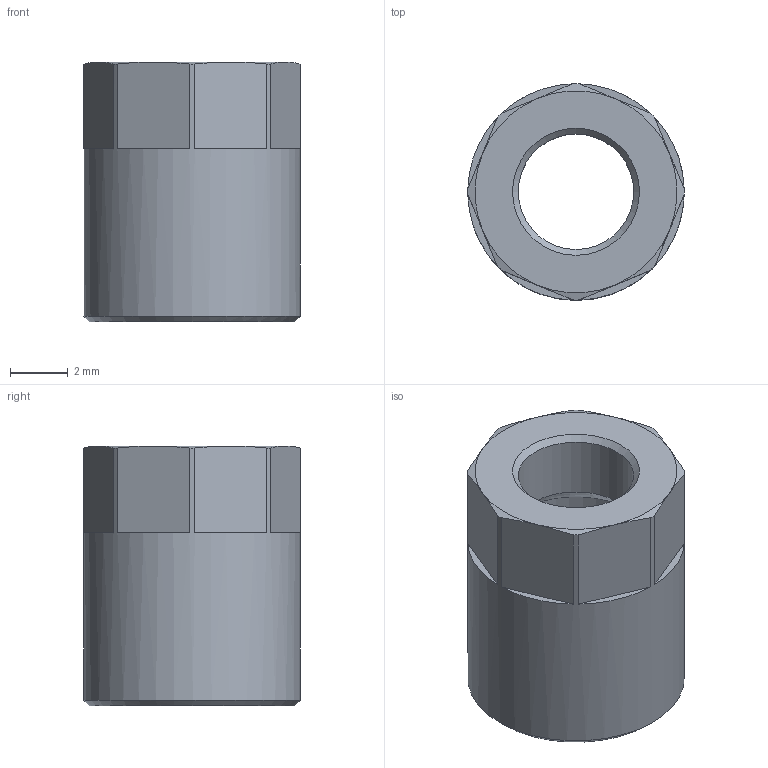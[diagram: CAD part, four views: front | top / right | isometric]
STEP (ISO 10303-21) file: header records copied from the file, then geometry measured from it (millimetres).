
FILE_DESCRIPTION(/* description */ (''),/* implementation_level */ '2;1');
FILE_NAME(/* name */ '17001_310_42,7_M6X0,5_15.08.17',/* time_stamp */ '2017-08-15T08:11:41+02:00',/* author */ (''),/* organization */ (''),/* preprocessor_version */ 'ST-DEVELOPER v16.5',/* originating_system */ 'HiCAD 2016 2102.2 Build 618',/* authorisation */ '');
FILE_SCHEMA (('AUTOMOTIVE_DESIGN { 1 0 10303 214 1 1 1 1 }'));
Length unit declared in the file: millimetre
Products named in the file (2): Root; 17001
Assembly tree (1 placements, depth 2):
  Root
    17001
Bounding box: 7.5 x 7.5 x 9 mm (x, y, z)
Volume: 206.8 mm3; surface area: 400.1 mm2
Topology: 1 solids, 1 shells, 33 faces, 81 edges, 50 vertices
Faces by surface type: plane 18, cone 12, cylinder 3
Full cylindrical faces by diameter (mm): 4 x1, 5.387 x1, 7.5 x1
Entity records: 1694 total; most frequent: DIRECTION 190, CARTESIAN_POINT 155, PRESENTATION_STYLE_ASSIGNMENT 145, COLOUR_RGB 145, DRAUGHTING_PRE_DEFINED_CURVE_FONT 144, CURVE_STYLE 144, OVER_RIDING_STYLED_ITEM 144, ORIENTED_EDGE 144
